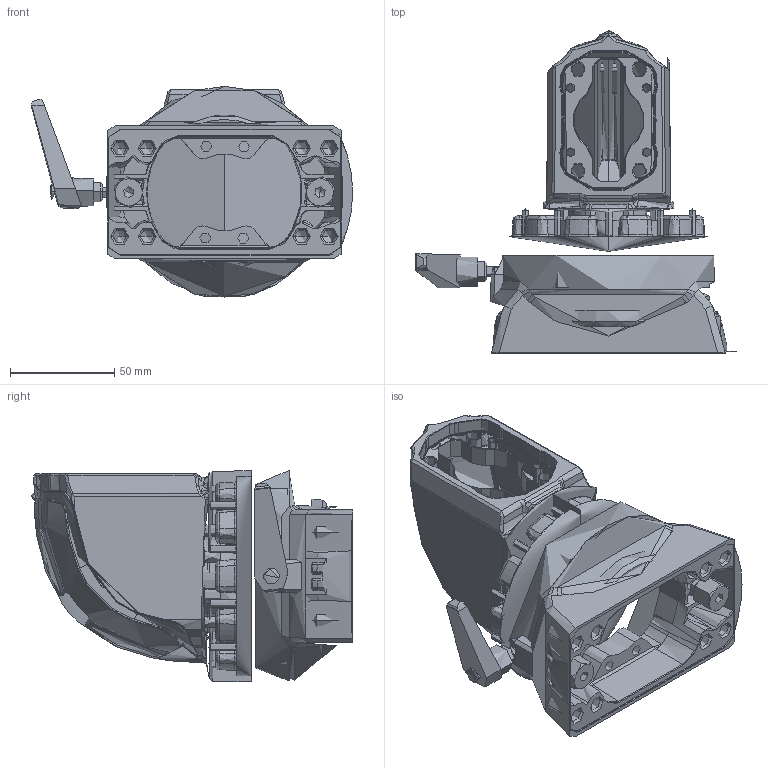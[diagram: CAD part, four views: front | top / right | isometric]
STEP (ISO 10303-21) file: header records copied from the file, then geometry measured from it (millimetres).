
FILE_DESCRIPTION (( 'STEP AP203' ), '1' );
FILE_NAME ('TP.045.2374.STEP', '2026-09-30T07:48:44', ( '' ), ( '' ), 'SwSTEP 2.0', 'SolidWorks 2015', '' );
FILE_SCHEMA (( 'CONFIG_CONTROL_DESIGN' ));
Length unit declared in the file: millimetre
Products named in the file (9): kapak vida; Vida_Yükseltme; TP.045.2374; TP.045.200; TP.045.Kapak; TP.045.700; TP.045.700_1; TP.045.Serrated Washer
Assembly tree (12 placements, depth 3):
  TP.045.2374
    TP.045.700
      TP.045.700_1
      Vida_Yükseltme  x2
      TP.045.Serrated Washer
    TP.045.200
      TP.045.200
      TP.045.Kapak
      kapak vida  x2
    kapak vida  x2
Bounding box: 153.94 x 154.11 x 101.23 mm (x, y, z)
Topology: 9 solids, 18 shells, 3495 faces, 8560 edges, 5072 vertices
Faces by surface type: bspline 2011, cylinder 442, plane 422, cone 375, torus 221, sphere 24
Entity records: 236777 total; most frequent: CARTESIAN_POINT 173381, ORIENTED_EDGE 16418, EDGE_CURVE 8209, DIRECTION 6850, B_SPLINE_CURVE_WITH_KNOTS 5278, VERTEX_POINT 4908, EDGE_LOOP 3457, ADVANCED_FACE 3363
